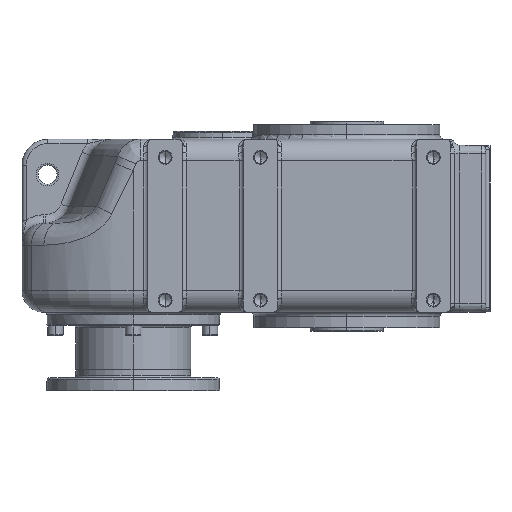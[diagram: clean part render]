
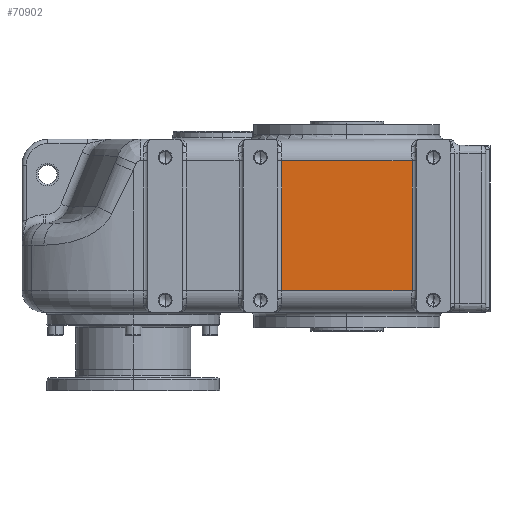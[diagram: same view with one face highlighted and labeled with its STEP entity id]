
A CAD part, left-side view. The second image highlights one B-rep face of the part: STEP entity #70902.
In plain terms, the highlighted planar face has unit normal (-1, 0, 0).
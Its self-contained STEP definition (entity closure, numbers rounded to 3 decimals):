
#49855 = CARTESIAN_POINT ( 'NONE',  ( -162., -75.417, 175. ) ) ;
#49947 = DIRECTION ( 'NONE',  ( 0., 1., 0. ) ) ;
#49954 = DIRECTION ( 'NONE',  ( 1., 0., 0. ) ) ;
#49955 = CARTESIAN_POINT ( 'NONE',  ( -162., 247., 200. ) ) ;
#49956 = AXIS2_PLACEMENT_3D ( 'NONE', #49955, #49954, #49947 ) ;
#49957 = PLANE ( 'NONE',  #49956 ) ;
#49962 = FACE_OUTER_BOUND ( 'NONE', #70864, .T. ) ;
#49963 = CARTESIAN_POINT ( 'NONE',  ( -162., 75.417, 175. ) ) ;
#49964 = DIRECTION ( 'NONE',  ( 0., 1., 0. ) ) ;
#49965 = VECTOR ( 'NONE', #49964, 1000. ) ;
#49966 = CARTESIAN_POINT ( 'NONE',  ( -162., 85., 175. ) ) ;
#49967 = LINE ( 'NONE', #49966, #49965 ) ;
#55819 = CARTESIAN_POINT ( 'NONE',  ( -162., 75.417, 25. ) ) ;
#55820 = DIRECTION ( 'NONE',  ( 0., 0., -1. ) ) ;
#55821 = VECTOR ( 'NONE', #55820, 1000. ) ;
#55822 = CARTESIAN_POINT ( 'NONE',  ( -162., 75.417, 200. ) ) ;
#55823 = LINE ( 'NONE', #55822, #55821 ) ;
#60180 = CARTESIAN_POINT ( 'NONE',  ( -162., -75.417, 25. ) ) ;
#61142 = LINE ( 'NONE', #61305, #61302 ) ;
#61301 = DIRECTION ( 'NONE',  ( 0., 0., 1. ) ) ;
#61302 = VECTOR ( 'NONE', #61301, 1000. ) ;
#61305 = CARTESIAN_POINT ( 'NONE',  ( -162., -75.417, 200. ) ) ;
#70864 = EDGE_LOOP ( 'NONE', ( #70894, #70900, #70973, #70925 ) ) ;
#70894 = ORIENTED_EDGE ( 'NONE', *, *, #70898, .T. ) ;
#70895 = VERTEX_POINT ( 'NONE', #49855 ) ;
#70898 = EDGE_CURVE ( 'NONE', #70895, #70899, #49967, .T. ) ;
#70899 = VERTEX_POINT ( 'NONE', #49963 ) ;
#70900 = ORIENTED_EDGE ( 'NONE', *, *, #70929, .T. ) ;
#70902 = ADVANCED_FACE ( 'NONE', ( #49962 ), #49957, .F. ) ;
#70925 = ORIENTED_EDGE ( 'NONE', *, *, #70957, .T. ) ;
#70929 = EDGE_CURVE ( 'NONE', #70899, #70930, #55823, .T. ) ;
#70930 = VERTEX_POINT ( 'NONE', #55819 ) ;
#70949 = VERTEX_POINT ( 'NONE', #60180 ) ;
#70957 = EDGE_CURVE ( 'NONE', #70949, #70895, #61142, .T. ) ;
#70973 = ORIENTED_EDGE ( 'NONE', *, *, #70974, .T. ) ;
#70974 = EDGE_CURVE ( 'NONE', #70930, #70949, #78674, .T. ) ;
#78671 = DIRECTION ( 'NONE',  ( 0., -1., 0. ) ) ;
#78672 = VECTOR ( 'NONE', #78671, 1000. ) ;
#78673 = CARTESIAN_POINT ( 'NONE',  ( -162., 247., 25. ) ) ;
#78674 = LINE ( 'NONE', #78673, #78672 ) ;
